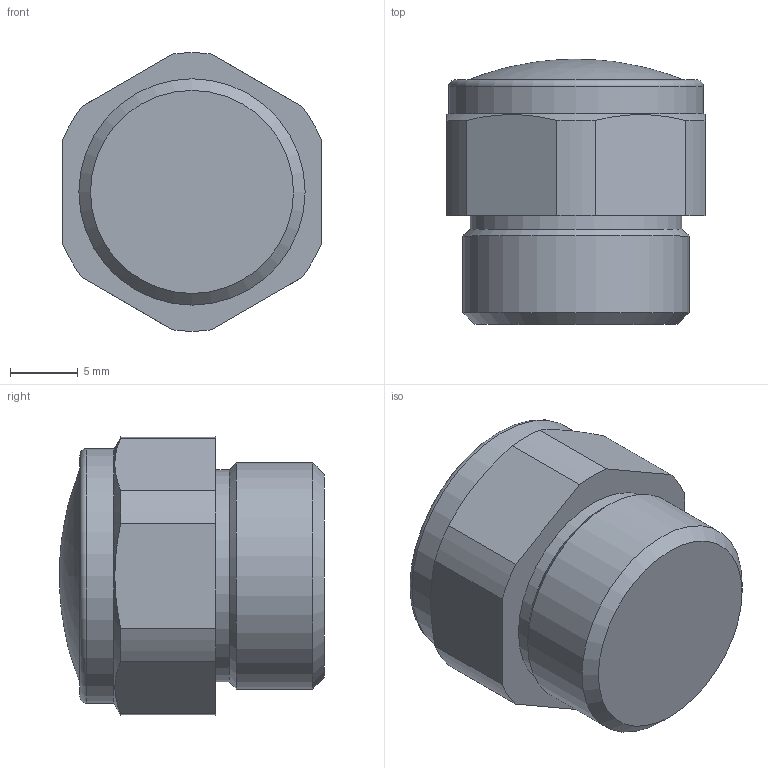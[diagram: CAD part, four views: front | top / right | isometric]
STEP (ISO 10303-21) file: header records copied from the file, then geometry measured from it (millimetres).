
FILE_DESCRIPTION( ( 'STEP AP214' ), '1' );
FILE_NAME( 'p:/temp/worker_6/temp/exporttempdir_6148_729_NeCh6/format_0/W0970530054.stp', '2021-12-09T08:48:07', ( 'License CC BY-ND 4.0' ), ( 'CADENAS' ), ' ', 'PARTsolutions', ' ' );
FILE_SCHEMA( ( 'AUTOMOTIVE_DESIGN { 1 0 10303 214 1 1 1 1 }' ) );
Length unit declared in the file: millimetre
Products named in the file (1): _W0970530054
Bounding box: 19 x 19.5 x 20.49 mm (x, y, z)
Volume: 4829.3 mm3; surface area: 1643 mm2
Topology: 1 solids, 1 shells, 24 faces, 56 edges, 36 vertices
Faces by surface type: plane 10, cylinder 9, cone 3, bspline 1, torus 1
Full cylindrical faces by diameter (mm): 15.6 x1, 16.662 x1, 18.768 x1
Entity records: 901 total; most frequent: CARTESIAN_POINT 179, DIRECTION 110, ORIENTED_EDGE 92, AXIS2_PLACEMENT_3D 46, EDGE_CURVE 46, VERTEX_POINT 35, EDGE_LOOP 34, FACE_OUTER_BOUND 28
